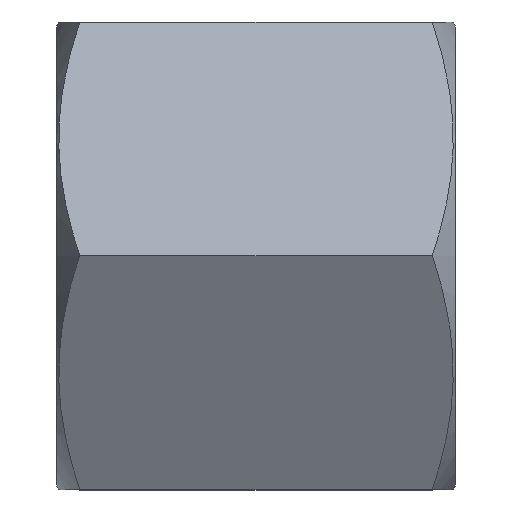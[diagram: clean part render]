
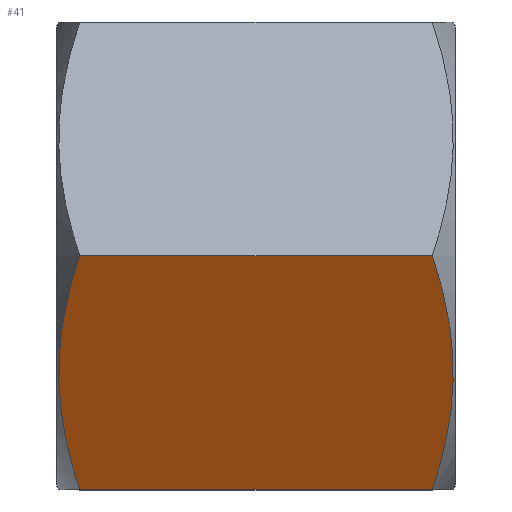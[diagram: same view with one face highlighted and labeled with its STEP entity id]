
A CAD part, top view. The second image highlights one B-rep face of the part: STEP entity #41.
In plain terms, the highlighted planar face has unit normal (0, -0.5, 0.866).
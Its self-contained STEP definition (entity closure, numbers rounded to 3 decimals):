
#41 = ADVANCED_FACE( '', ( #92 ), #93, .T. );
#92 = FACE_OUTER_BOUND( '', #161, .T. );
#93 = PLANE( '', #162 );
#161 = EDGE_LOOP( '', ( #224, #225, #226, #227 ) );
#162 = AXIS2_PLACEMENT_3D( '', #228, #229, #230 );
#224 = ORIENTED_EDGE( '', *, *, #348, .F. );
#225 = ORIENTED_EDGE( '', *, *, #349, .F. );
#226 = ORIENTED_EDGE( '', *, *, #350, .T. );
#227 = ORIENTED_EDGE( '', *, *, #351, .T. );
#228 = CARTESIAN_POINT( '', ( -14.5, 0., 9.815 ) );
#229 = DIRECTION( '', ( 0., -0.5, 0.866 ) );
#230 = DIRECTION( '', ( 0., -0.866, -0.5 ) );
#348 = EDGE_CURVE( '', #393, #394, #395, .T. );
#349 = EDGE_CURVE( '', #396, #393, #397, .T. );
#350 = EDGE_CURVE( '', #396, #398, #399, .T. );
#351 = EDGE_CURVE( '', #398, #394, #400, .T. );
#393 = VERTEX_POINT( '', #460 );
#394 = VERTEX_POINT( '', #461 );
#395 = B_SPLINE_CURVE_WITH_KNOTS( '', 3, ( #462, #463, #464, #465, #466, #467, #468, #469, #470, #471, #472, #473 ), .UNSPECIFIED., .F., .F., ( 4, 2, 2, 2, 2, 4 ), ( 0., 0.002, 0.005, 0.006, 0.007, 0.01 ), .UNSPECIFIED. );
#396 = VERTEX_POINT( '', #474 );
#397 = LINE( '', #475, #476 );
#398 = VERTEX_POINT( '', #477 );
#399 = B_SPLINE_CURVE_WITH_KNOTS( '', 3, ( #478, #479, #480, #481, #482, #483, #484, #485, #486, #487, #488, #489 ), .UNSPECIFIED., .F., .F., ( 4, 2, 2, 2, 2, 4 ), ( 0., 0.002, 0.005, 0.006, 0.007, 0.01 ), .UNSPECIFIED. );
#400 = LINE( '', #490, #491 );
#460 = CARTESIAN_POINT( '', ( -0.837, 0., 9.815 ) );
#461 = CARTESIAN_POINT( '', ( -0.837, -8.5, 4.907 ) );
#462 = CARTESIAN_POINT( '', ( -0.837, 0., 9.815 ) );
#463 = CARTESIAN_POINT( '', ( -0.606, -0.694, 9.414 ) );
#464 = CARTESIAN_POINT( '', ( -0.415, -1.393, 9.011 ) );
#465 = CARTESIAN_POINT( '', ( -0.151, -2.806, 8.195 ) );
#466 = CARTESIAN_POINT( '', ( -0.079, -3.519, 7.783 ) );
#467 = CARTESIAN_POINT( '', ( -0.078, -4.603, 7.157 ) );
#468 = CARTESIAN_POINT( '', ( -0.095, -4.966, 6.948 ) );
#469 = CARTESIAN_POINT( '', ( -0.165, -5.684, 6.533 ) );
#470 = CARTESIAN_POINT( '', ( -0.216, -6.041, 6.327 ) );
#471 = CARTESIAN_POINT( '', ( -0.414, -7.105, 5.713 ) );
#472 = CARTESIAN_POINT( '', ( -0.606, -7.805, 5.309 ) );
#473 = CARTESIAN_POINT( '', ( -0.837, -8.5, 4.907 ) );
#474 = CARTESIAN_POINT( '', ( -13.663, 0., 9.815 ) );
#475 = CARTESIAN_POINT( '', ( -14.5, 0., 9.815 ) );
#476 = VECTOR( '', #656, 1000. );
#477 = CARTESIAN_POINT( '', ( -13.663, -8.5, 4.907 ) );
#478 = CARTESIAN_POINT( '', ( -13.663, 0., 9.815 ) );
#479 = CARTESIAN_POINT( '', ( -13.894, -0.694, 9.414 ) );
#480 = CARTESIAN_POINT( '', ( -14.085, -1.393, 9.011 ) );
#481 = CARTESIAN_POINT( '', ( -14.349, -2.806, 8.195 ) );
#482 = CARTESIAN_POINT( '', ( -14.421, -3.519, 7.783 ) );
#483 = CARTESIAN_POINT( '', ( -14.422, -4.603, 7.157 ) );
#484 = CARTESIAN_POINT( '', ( -14.405, -4.966, 6.948 ) );
#485 = CARTESIAN_POINT( '', ( -14.335, -5.684, 6.533 ) );
#486 = CARTESIAN_POINT( '', ( -14.284, -6.041, 6.327 ) );
#487 = CARTESIAN_POINT( '', ( -14.086, -7.105, 5.713 ) );
#488 = CARTESIAN_POINT( '', ( -13.894, -7.805, 5.309 ) );
#489 = CARTESIAN_POINT( '', ( -13.663, -8.5, 4.907 ) );
#490 = CARTESIAN_POINT( '', ( -14.5, -8.5, 4.907 ) );
#491 = VECTOR( '', #657, 1000. );
#656 = DIRECTION( '', ( 1., 0., 0. ) );
#657 = DIRECTION( '', ( 1., 0., 0. ) );
